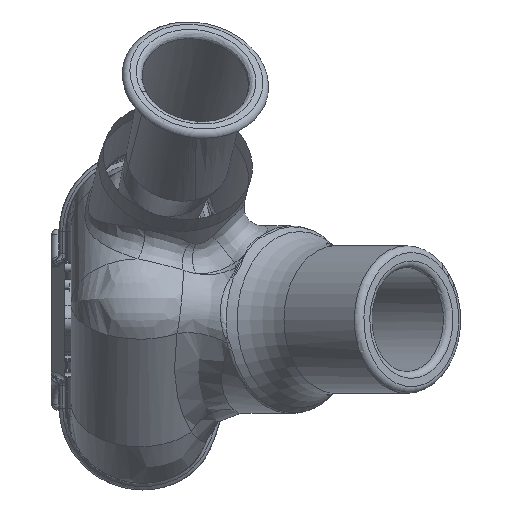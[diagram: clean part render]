
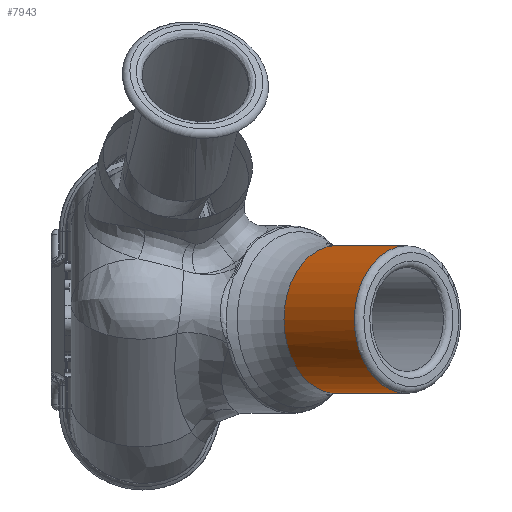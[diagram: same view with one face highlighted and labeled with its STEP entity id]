
A CAD part, front view. The second image highlights one B-rep face of the part: STEP entity #7943.
In plain terms, the highlighted cylindrical face has radius 11 mm (diameter 22 mm), a full revolution.
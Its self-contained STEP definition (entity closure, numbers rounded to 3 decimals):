
#163=CYLINDRICAL_SURFACE('',#8386,11.);
#272=CIRCLE('',#8382,11.);
#274=CIRCLE('',#8384,11.);
#275=CIRCLE('',#8385,11.);
#276=CIRCLE('',#8387,11.);
#277=CIRCLE('',#8388,11.);
#1408=FACE_OUTER_BOUND('',#1882,.T.);
#1882=EDGE_LOOP('',(#6142,#6143,#6144,#6145,#6146,#6147,#6148));
#2423=LINE('',#19275,#2846);
#2846=VECTOR('',#9331,11.);
#3384=VERTEX_POINT('',#19266);
#3385=VERTEX_POINT('',#19267);
#3386=VERTEX_POINT('',#19270);
#3387=VERTEX_POINT('',#19274);
#3388=VERTEX_POINT('',#19276);
#4369=EDGE_CURVE('',#3384,#3385,#272,.T.);
#4371=EDGE_CURVE('',#3385,#3386,#274,.T.);
#4372=EDGE_CURVE('',#3386,#3384,#275,.T.);
#4373=EDGE_CURVE('',#3386,#3387,#2423,.T.);
#4374=EDGE_CURVE('',#3388,#3387,#276,.T.);
#4375=EDGE_CURVE('',#3387,#3388,#277,.T.);
#6142=ORIENTED_EDGE('',*,*,#4369,.F.);
#6143=ORIENTED_EDGE('',*,*,#4372,.F.);
#6144=ORIENTED_EDGE('',*,*,#4373,.T.);
#6145=ORIENTED_EDGE('',*,*,#4374,.F.);
#6146=ORIENTED_EDGE('',*,*,#4375,.F.);
#6147=ORIENTED_EDGE('',*,*,#4373,.F.);
#6148=ORIENTED_EDGE('',*,*,#4371,.F.);
#7943=ADVANCED_FACE('',(#1408),#163,.T.);
#8382=AXIS2_PLACEMENT_3D('',#19268,#9321,#9322);
#8384=AXIS2_PLACEMENT_3D('',#19271,#9325,#9326);
#8385=AXIS2_PLACEMENT_3D('',#19272,#9327,#9328);
#8386=AXIS2_PLACEMENT_3D('',#19273,#9329,#9330);
#8387=AXIS2_PLACEMENT_3D('',#19277,#9332,#9333);
#8388=AXIS2_PLACEMENT_3D('',#19278,#9334,#9335);
#9321=DIRECTION('center_axis',(0.707,-0.707,0.));
#9322=DIRECTION('ref_axis',(0.707,0.707,0.));
#9325=DIRECTION('center_axis',(0.707,-0.707,0.));
#9326=DIRECTION('ref_axis',(0.707,0.707,0.));
#9327=DIRECTION('center_axis',(0.707,-0.707,0.));
#9328=DIRECTION('ref_axis',(0.707,0.707,0.));
#9329=DIRECTION('center_axis',(0.707,-0.707,0.));
#9330=DIRECTION('ref_axis',(0.707,0.707,0.));
#9331=DIRECTION('',(-0.707,0.707,0.));
#9332=DIRECTION('center_axis',(-0.707,0.707,0.));
#9333=DIRECTION('ref_axis',(0.707,0.707,0.));
#9334=DIRECTION('center_axis',(-0.707,0.707,0.));
#9335=DIRECTION('ref_axis',(0.707,0.707,0.));
#19266=CARTESIAN_POINT('',(44.884,68.029,-8.274));
#19267=CARTESIAN_POINT('',(50.757,73.902,-12.062));
#19268=CARTESIAN_POINT('Origin',(50.757,73.902,-1.062));
#19270=CARTESIAN_POINT('',(42.979,66.124,-1.062));
#19271=CARTESIAN_POINT('Origin',(50.757,73.902,-1.062));
#19272=CARTESIAN_POINT('Origin',(50.757,73.902,-1.062));
#19273=CARTESIAN_POINT('Origin',(33.786,90.873,-1.062));
#19274=CARTESIAN_POINT('',(32.481,76.621,-1.062));
#19275=CARTESIAN_POINT('',(26.008,83.094,-1.062));
#19276=CARTESIAN_POINT('',(40.26,84.399,9.938));
#19277=CARTESIAN_POINT('Origin',(40.26,84.399,-1.062));
#19278=CARTESIAN_POINT('Origin',(40.26,84.399,-1.062));
